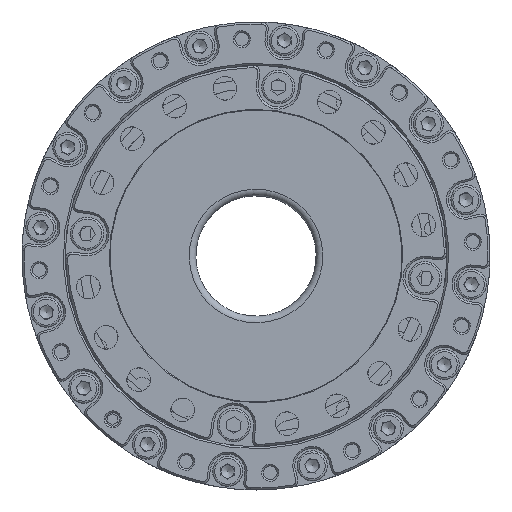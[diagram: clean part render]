
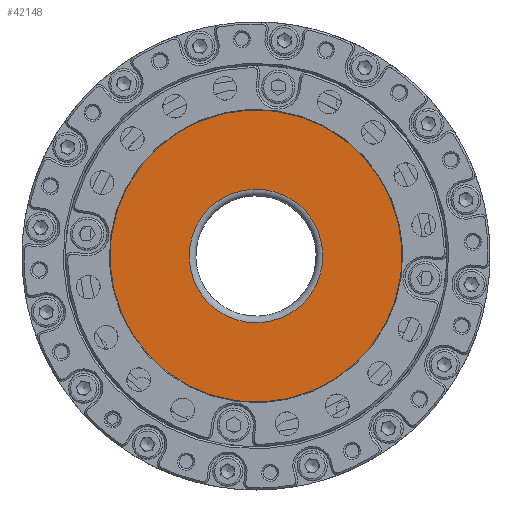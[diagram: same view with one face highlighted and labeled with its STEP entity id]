
A CAD part, front view. The second image highlights one B-rep face of the part: STEP entity #42148.
In plain terms, the highlighted planar face has unit normal (0, -1, 0).
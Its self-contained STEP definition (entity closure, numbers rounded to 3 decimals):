
#422 = EDGE_CURVE ( 'NONE', #32523, #32523, #26606, .T. ) ;
#3087 = DIRECTION ( 'NONE',  ( 0., -1., 0. ) ) ;
#3506 = FACE_OUTER_BOUND ( 'NONE', #36982, .T. ) ;
#6618 = AXIS2_PLACEMENT_3D ( 'NONE', #17711, #3087, #14458 ) ;
#8311 = CARTESIAN_POINT ( 'NONE',  ( -4.668, -29.909, -19.594 ) ) ;
#8886 = EDGE_CURVE ( 'NONE', #28256, #28256, #14295, .T. ) ;
#9108 = AXIS2_PLACEMENT_3D ( 'NONE', #37267, #19507, #12493 ) ;
#11580 = ORIENTED_EDGE ( 'NONE', *, *, #422, .T. ) ;
#12493 = DIRECTION ( 'NONE',  ( -0.131, 0., -0.991 ) ) ;
#13699 = FACE_BOUND ( 'NONE', #44885, .T. ) ;
#14295 = CIRCLE ( 'NONE', #9108, 10. ) ;
#14458 = DIRECTION ( 'NONE',  ( -0.131, 0., -0.991 ) ) ;
#17711 = CARTESIAN_POINT ( 'NONE',  ( -1.816, -29.909, 2.069 ) ) ;
#19507 = DIRECTION ( 'NONE',  ( 0., 1., 0. ) ) ;
#20560 = CARTESIAN_POINT ( 'NONE',  ( -3.121, -29.909, -7.846 ) ) ;
#22541 = DIRECTION ( 'NONE',  ( 0., -1., 0. ) ) ;
#25780 = DIRECTION ( 'NONE',  ( -0.131, 0., -0.991 ) ) ;
#26017 = CARTESIAN_POINT ( 'NONE',  ( -1.816, -29.909, 2.069 ) ) ;
#26606 = CIRCLE ( 'NONE', #6618, 21.85 ) ;
#27350 = AXIS2_PLACEMENT_3D ( 'NONE', #26017, #22541, #25780 ) ;
#28256 = VERTEX_POINT ( 'NONE', #20560 ) ;
#28650 = ORIENTED_EDGE ( 'NONE', *, *, #8886, .T. ) ;
#31652 = PLANE ( 'NONE',  #27350 ) ;
#32523 = VERTEX_POINT ( 'NONE', #8311 ) ;
#36982 = EDGE_LOOP ( 'NONE', ( #11580 ) ) ;
#37267 = CARTESIAN_POINT ( 'NONE',  ( -1.816, -29.909, 2.069 ) ) ;
#42148 = ADVANCED_FACE ( 'NONE', ( #13699, #3506 ), #31652, .T. ) ;
#44885 = EDGE_LOOP ( 'NONE', ( #28650 ) ) ;
